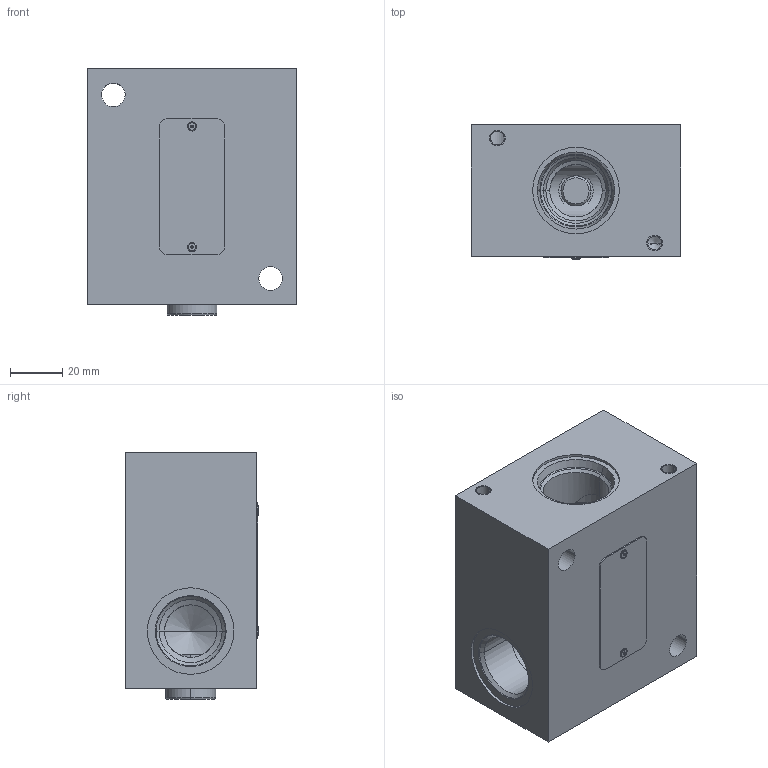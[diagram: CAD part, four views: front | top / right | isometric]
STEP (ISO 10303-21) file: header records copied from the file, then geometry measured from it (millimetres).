
FILE_DESCRIPTION((''),'2;1');
FILE_NAME('1000108474_ASM','2023-10-12T',('l.soukupova'),(''),'PRO/ENGINEER BY PARAMETRIC TECHNOLOGY CORPORATION, 2015440','PRO/ENGINEER BY PARAMETRIC TECHNOLOGY CORPORATION, 2015440','');
FILE_SCHEMA(('AUTOMOTIVE_DESIGN { 1 0 10303 214 1 1 1 1 }'));
Length unit declared in the file: millimetre
Products named in the file (5): 1000108463; RD_LABEL_25X52_159703; AF_1932_16485; VSTI_1_4_ED_156253; 1000108474_ASM
Assembly tree (5 placements, depth 2):
  1000108474_ASM
    1000108463
    RD_LABEL_25X52_159703
    AF_1932_16485  x2
    VSTI_1_4_ED_156253
Bounding box: 80 x 51 x 94 mm (x, y, z)
Volume: 287653.4 mm3; surface area: 53646.5 mm2
Topology: 5 solids, 12 shells, 168 faces, 427 edges, 307 vertices
Faces by surface type: cylinder 81, plane 43, cone 34, torus 10
Entity records: 7268 total; most frequent: CARTESIAN_POINT 1469, DIRECTION 933, ORIENTED_EDGE 686, PRESENTATION_STYLE_ASSIGNMENT 440, STYLED_ITEM 420, CURVE_STYLE 409, AXIS2_PLACEMENT_3D 373, EDGE_CURVE 357
